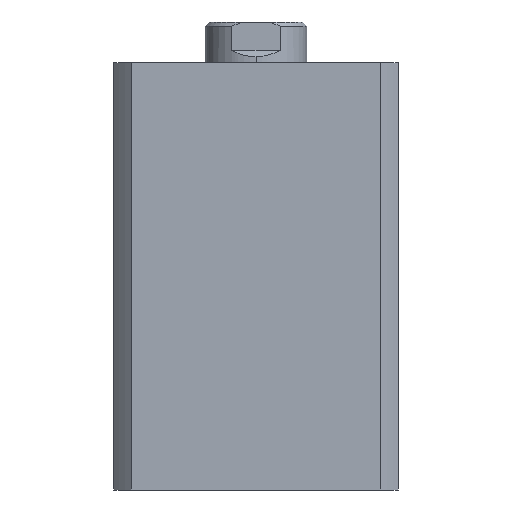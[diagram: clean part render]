
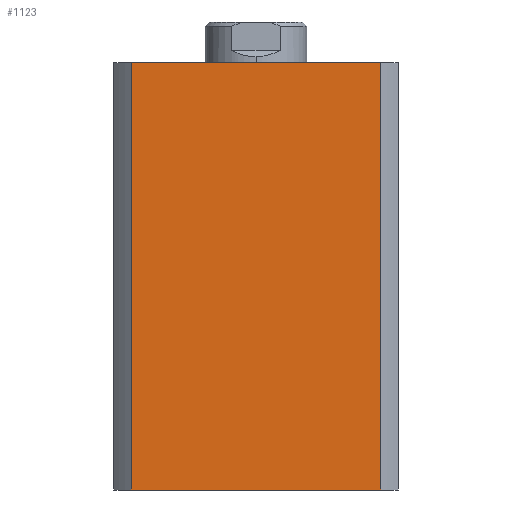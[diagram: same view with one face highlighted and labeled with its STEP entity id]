
A CAD part, left-side view. The second image highlights one B-rep face of the part: STEP entity #1123.
In plain terms, the highlighted planar face has unit normal (-1, 0, 0).
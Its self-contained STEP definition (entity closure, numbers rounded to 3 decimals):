
#524 = EDGE_LOOP ( 'NONE', ( #4950, #4956, #4962, #4985 ) ) ;
#743 = VECTOR ( 'NONE', #3396, 1000. ) ;
#745 = LINE ( 'NONE', #3403, #743 ) ;
#1123 = ADVANCED_FACE ( 'NONE', ( #2240 ), #2530, .F. ) ;
#1585 = CARTESIAN_POINT ( 'NONE',  ( -35., 30.615, 105. ) ) ;
#1599 = CARTESIAN_POINT ( 'NONE',  ( -35., -30.615, 0. ) ) ;
#1633 = CARTESIAN_POINT ( 'NONE',  ( -35., 30.615, 0. ) ) ;
#1715 = CARTESIAN_POINT ( 'NONE',  ( -35., -30.615, 105. ) ) ;
#1847 = CARTESIAN_POINT ( 'NONE',  ( -35., 0., 105. ) ) ;
#1851 = DIRECTION ( 'NONE',  ( 0., 0., -1. ) ) ;
#1852 = DIRECTION ( 'NONE',  ( 0., -1., 0. ) ) ;
#1853 = CARTESIAN_POINT ( 'NONE',  ( -35., -30.615, 105. ) ) ;
#1854 = CARTESIAN_POINT ( 'NONE',  ( -35., 30.615, 105. ) ) ;
#1855 = DIRECTION ( 'NONE',  ( 0., 0., -1. ) ) ;
#1973 = AXIS2_PLACEMENT_3D ( 'NONE', #2538, #2526, #2525 ) ;
#2240 = FACE_OUTER_BOUND ( 'NONE', #524, .T. ) ;
#2525 = DIRECTION ( 'NONE',  ( 0., 1., 0. ) ) ;
#2526 = DIRECTION ( 'NONE',  ( 1., 0., 0. ) ) ;
#2530 = PLANE ( 'NONE',  #1973 ) ;
#2538 = CARTESIAN_POINT ( 'NONE',  ( -35., 0., 105. ) ) ;
#2626 = VERTEX_POINT ( 'NONE', #1585 ) ;
#2640 = VERTEX_POINT ( 'NONE', #1599 ) ;
#2674 = VERTEX_POINT ( 'NONE', #1633 ) ;
#2756 = VERTEX_POINT ( 'NONE', #1715 ) ;
#2915 = EDGE_CURVE ( 'NONE', #2626, #2756, #3080, .T. ) ;
#2916 = EDGE_CURVE ( 'NONE', #2756, #2640, #3075, .T. ) ;
#2918 = EDGE_CURVE ( 'NONE', #2626, #2674, #3071, .T. ) ;
#2987 = EDGE_CURVE ( 'NONE', #2674, #2640, #745, .T. ) ;
#3071 = LINE ( 'NONE', #1854, #3072 ) ;
#3072 = VECTOR ( 'NONE', #1851, 1000. ) ;
#3073 = VECTOR ( 'NONE', #1855, 1000. ) ;
#3074 = VECTOR ( 'NONE', #1852, 1000. ) ;
#3075 = LINE ( 'NONE', #1853, #3073 ) ;
#3080 = LINE ( 'NONE', #1847, #3074 ) ;
#3396 = DIRECTION ( 'NONE',  ( 0., -1., 0. ) ) ;
#3403 = CARTESIAN_POINT ( 'NONE',  ( -35., 0., 0. ) ) ;
#4950 = ORIENTED_EDGE ( 'NONE', *, *, #2987, .T. ) ;
#4956 = ORIENTED_EDGE ( 'NONE', *, *, #2916, .F. ) ;
#4962 = ORIENTED_EDGE ( 'NONE', *, *, #2915, .F. ) ;
#4985 = ORIENTED_EDGE ( 'NONE', *, *, #2918, .T. ) ;
